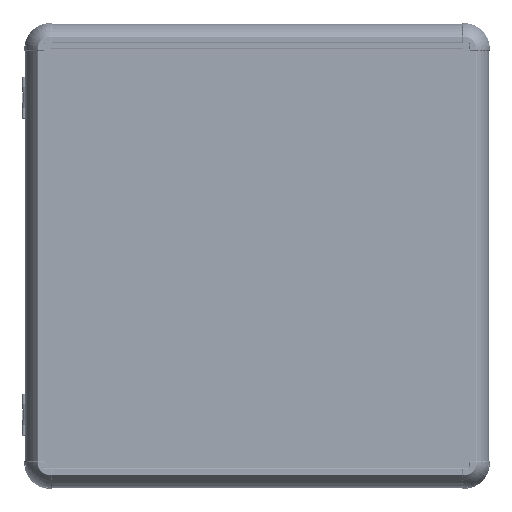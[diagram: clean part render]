
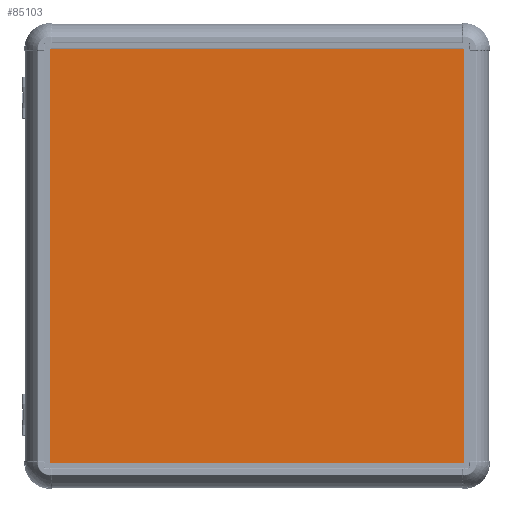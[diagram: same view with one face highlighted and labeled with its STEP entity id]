
A CAD part, top view. The second image highlights one B-rep face of the part: STEP entity #85103.
In plain terms, the highlighted planar face has unit normal (0, 0, 1).
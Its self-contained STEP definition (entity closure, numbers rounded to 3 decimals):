
#1669 = DIRECTION ( 'NONE',  ( 1., 0., 0. ) ) ;
#3660 = CARTESIAN_POINT ( 'NONE',  ( 200., -200., 2. ) ) ;
#7967 = CARTESIAN_POINT ( 'NONE',  ( 200., 200., 2. ) ) ;
#8300 = VERTEX_POINT ( 'NONE', #132479 ) ;
#12332 = EDGE_CURVE ( 'NONE', #60895, #186684, #56312, .T. ) ;
#18124 = CARTESIAN_POINT ( 'NONE',  ( 0., 0., 2. ) ) ;
#23357 = CARTESIAN_POINT ( 'NONE',  ( -200., -200., 2. ) ) ;
#31385 = LINE ( 'NONE', #127021, #34597 ) ;
#34597 = VECTOR ( 'NONE', #193700, 1000. ) ;
#36062 = ORIENTED_EDGE ( 'NONE', *, *, #46589, .T. ) ;
#37819 = CARTESIAN_POINT ( 'NONE',  ( -200., 200., 2. ) ) ;
#41059 = DIRECTION ( 'NONE',  ( 0., 1., 0. ) ) ;
#46589 = EDGE_CURVE ( 'NONE', #8300, #60895, #31385, .T. ) ;
#52392 = EDGE_CURVE ( 'NONE', #121231, #8300, #170517, .T. ) ;
#56312 = LINE ( 'NONE', #23357, #178415 ) ;
#60895 = VERTEX_POINT ( 'NONE', #158157 ) ;
#62877 = ORIENTED_EDGE ( 'NONE', *, *, #52392, .T. ) ;
#63413 = ORIENTED_EDGE ( 'NONE', *, *, #12332, .T. ) ;
#66399 = FACE_OUTER_BOUND ( 'NONE', #97608, .T. ) ;
#76957 = ORIENTED_EDGE ( 'NONE', *, *, #135214, .T. ) ;
#85103 = ADVANCED_FACE ( 'NONE', ( #66399 ), #123113, .T. ) ;
#97608 = EDGE_LOOP ( 'NONE', ( #76957, #62877, #36062, #63413 ) ) ;
#110852 = AXIS2_PLACEMENT_3D ( 'NONE', #18124, #151961, #1669 ) ;
#121231 = VERTEX_POINT ( 'NONE', #7967 ) ;
#123113 = PLANE ( 'NONE',  #110852 ) ;
#124575 = CARTESIAN_POINT ( 'NONE',  ( 200., 200., 2. ) ) ;
#127021 = CARTESIAN_POINT ( 'NONE',  ( -200., 200., 2. ) ) ;
#132479 = CARTESIAN_POINT ( 'NONE',  ( -200., 200., 2. ) ) ;
#135214 = EDGE_CURVE ( 'NONE', #186684, #121231, #209902, .T. ) ;
#151961 = DIRECTION ( 'NONE',  ( 0., 0., 1. ) ) ;
#153262 = VECTOR ( 'NONE', #171605, 1000. ) ;
#158157 = CARTESIAN_POINT ( 'NONE',  ( -200., -200., 2. ) ) ;
#170517 = LINE ( 'NONE', #37819, #153262 ) ;
#171605 = DIRECTION ( 'NONE',  ( -1., 0., 0. ) ) ;
#178415 = VECTOR ( 'NONE', #188918, 1000. ) ;
#186684 = VERTEX_POINT ( 'NONE', #3660 ) ;
#188918 = DIRECTION ( 'NONE',  ( 1., 0., 0. ) ) ;
#193700 = DIRECTION ( 'NONE',  ( 0., -1., 0. ) ) ;
#206636 = VECTOR ( 'NONE', #41059, 1000. ) ;
#209902 = LINE ( 'NONE', #124575, #206636 ) ;
